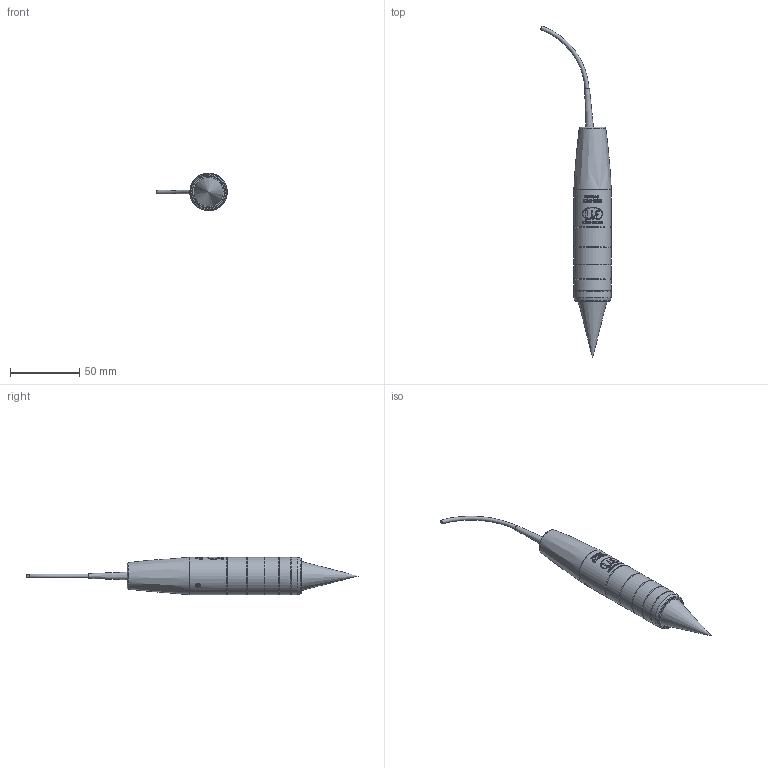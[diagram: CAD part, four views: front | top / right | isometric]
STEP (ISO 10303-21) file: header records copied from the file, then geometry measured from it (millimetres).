
FILE_DESCRIPTION (( 'STEP AP214' ), '1' );
FILE_NAME ('IFS2404-6.STEP', '2023-05-02T12:21:49', ( '' ), ( '' ), 'SwSTEP 2.0', 'SolidWorks 2020', '' );
FILE_SCHEMA (( 'AUTOMOTIVE_DESIGN' ));
Length unit declared in the file: millimetre
Products named in the file (4): 101192_000; 105144_000; IFS2404-6; Kopie von Teil21^105053_000
Assembly tree (3 placements, depth 2):
  IFS2404-6
    101192_000
    Kopie von Teil21^105053_000
    105144_000
Bounding box: 50.87 x 239.36 x 27 mm (x, y, z)
Volume: 60475 mm3; surface area: 20138.1 mm2
Topology: 3 solids, 5 shells, 186 faces, 770 edges, 658 vertices
Faces by surface type: cylinder 81, plane 73, cone 17, torus 10, bspline 5
Full cylindrical faces by diameter (mm): 0.05 x1, 2.5 x2, 3.8 x2, 7 x1, 9.2 x1, 10 x1, 14 x1, 17.334 x1, 19 x1, 20 x1, 21 x1, 22.4 x1, 23 x2, 23.5 x1, 24 x1, 24.1 x1, 25.079 x1, 26.9 x1, 27 x5
Entity records: 14343 total; most frequent: CARTESIAN_POINT 6553, ORIENTED_EDGE 1376, DIRECTION 914, EDGE_CURVE 688, VERTEX_POINT 633, AXIS2_PLACEMENT_3D 364, B_SPLINE_CURVE_WITH_KNOTS 312, EDGE_LOOP 311
